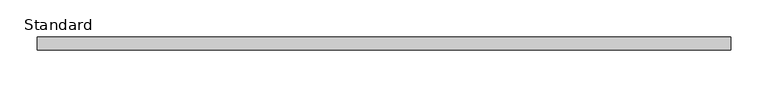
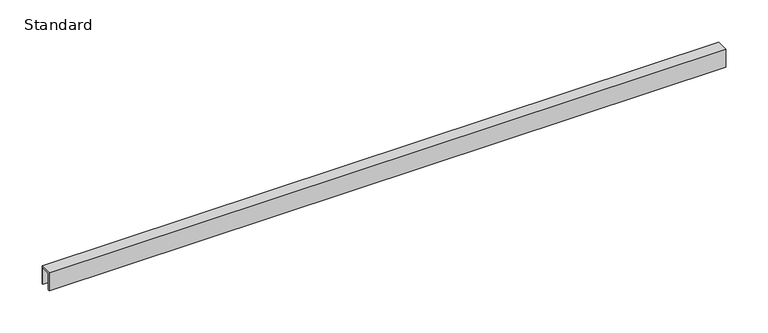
"""IFC4 building model written with IfcOpenShell, lengths in millimetres: furniture geometry, X_Partition-Channel-Duracube-Ceiling : Standard."""

from ifc_helpers import new_model, si_unit, frame, origin, place, context, project, spatial, polyline, outline, extrude, source, transform, mapped, element, save


def standard_b7de49b0(model_context):
    return source(origin(), model_context, "Body", "SweptSolid", [
        extrude(outline(polyline([(0.0, 0.0), (-2.0, 0.0), (-2.0, 24.0), (-15.0, 24.0), (-15.0, 0.0), (-17.0, 0.0), (-17.0, 26.0), (0.0, 26.0), (0.0, 0.0)])), frame((-418.7996736, 0.0, 0.0), z_axis=(1.0, 0.0, 0.0), x_axis=(0.0, 1.0, 0.0)), (0.0, 0.0, 1.0), 927.0),
    ])


if __name__ == "__main__":
    model = new_model("IFC4")
    model_context = context("Model", 3, world=origin())
    ifc_project = project(units=[si_unit("LENGTHUNIT", "METRE", prefix="MILLI")], contexts=[model_context])
    site = spatial("IfcSite", under=ifc_project)
    building = spatial("IfcBuilding", under=site)
    placement = place(None, origin())
    standard_shape = standard_b7de49b0(model_context)
    element("IfcFurniture", 1, ObjectType="X_Partition-Channel-Duracube-Ceiling : Standard", at=placement, inside=building, context=model_context, shape_type="MappedRepresentation", body=[
        mapped(standard_shape, transform((0.0, 0.0, 0.0), x_axis=(1.0, 0.0, 0.0), y_axis=(0.0, 1.0, 0.0), z_axis=(0.0, 0.0, 1.0))),
    ])
    save(model, "model.ifc")
